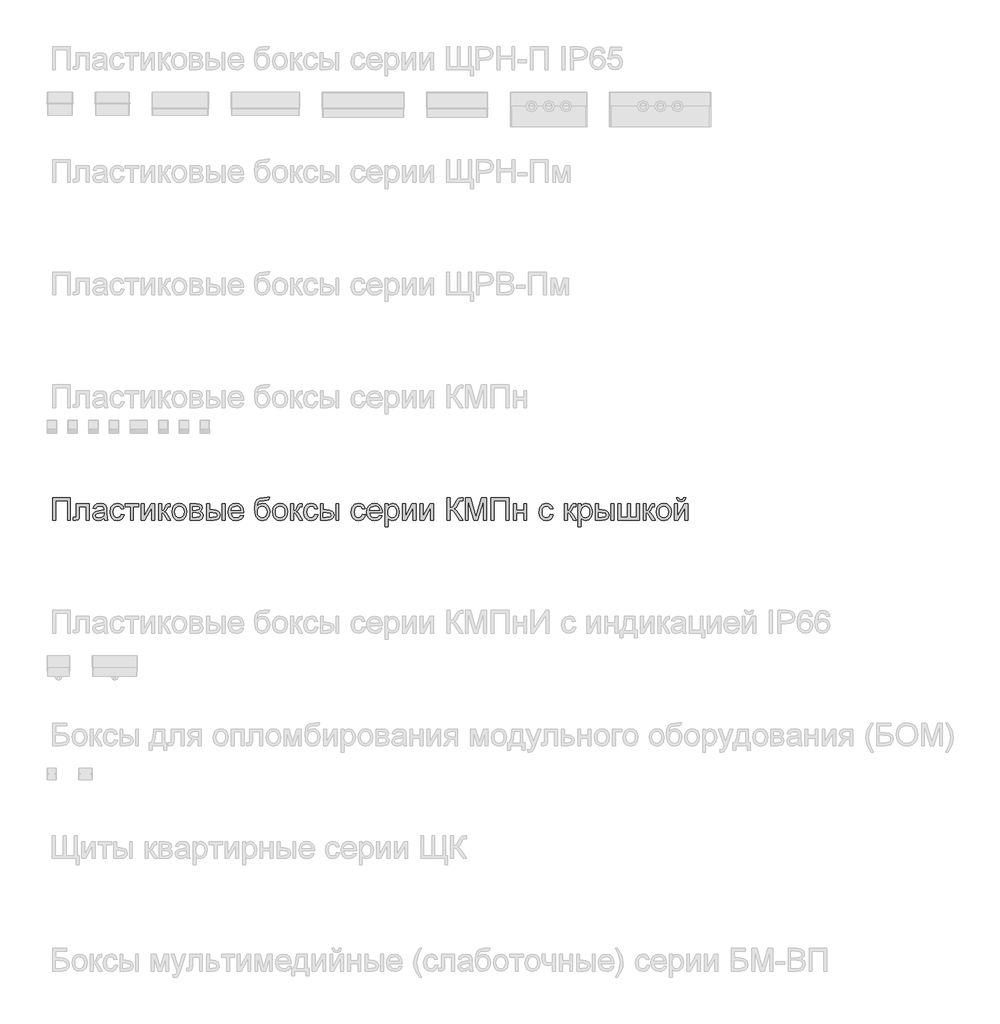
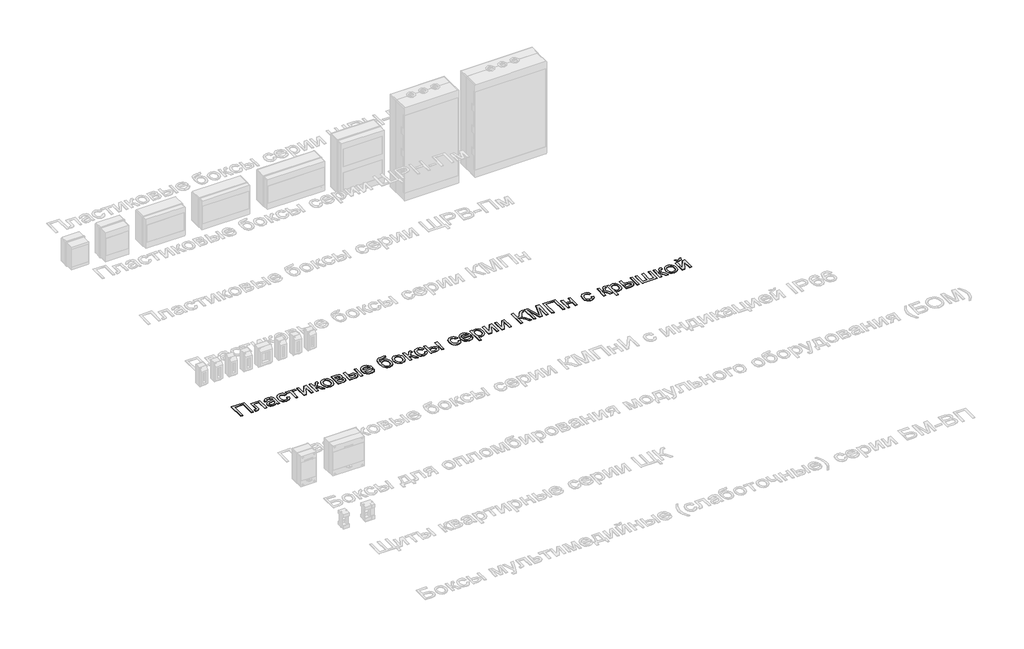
# One storey, part 20 of 25: 1 proxy.
"""IFC4 building model written with IfcOpenShell, lengths in millimetres."""

from ifc_helpers import new_model, si_unit, frame, origin, place, context, project, spatial, polyline, outline, extrude, element, save

model = new_model("IFC4")

# Units and contexts
model_context = context("Model", 3, world=origin())
ifc_project = project(units=[si_unit("LENGTHUNIT", "METRE", prefix="MILLI")], contexts=[model_context])

# Site, building, storey
site = spatial("IfcSite", under=ifc_project)
building = spatial("IfcBuilding", under=site)
storey = spatial("IfcBuildingStorey", under=building, Name="Этаж 01", Elevation=0.0)

# Proxy
placement = place(None, origin())
element("IfcBuildingElementProxy", 1, Name="Надпись на модели 1", ObjectType="Надпись на модели 1", at=placement, inside=storey, context=model_context, shape_type="SweptSolid", body=[
    extrude(outline(polyline([(-19038.1210387, 15636.6915941), (-18959.6395464, 15636.6915941), (-18959.6395464, 15536.235284), (-18972.1965852, 15536.235284), (-18972.1965852, 15624.1345554), (-19025.564, 15624.1345554), (-19025.564, 15536.235284), (-19038.1210387, 15536.235284), (-19038.1210387, 15636.6915941)])), frame((0.0, 0.0, 40.0), z_axis=(0.0, 0.0, 1.0), x_axis=(1.0, 0.0, 0.0)), (0.0, 0.0, 1.0), 2.0),
    extrude(outline(polyline([(-18932.955839, 15610.0078868), (-18876.4491646, 15610.0078868), (-18876.4491646, 15536.3088604), (-18889.0062033, 15536.3088604), (-18889.0062033, 15597.450848), (-18920.3988003, 15597.450848), (-18920.3988003, 15562.2568038), (-18921.2449289, 15546.0209451), (-18925.8925047, 15539.1660772), (-18936.8799137, 15536.235284), (-18947.0825077, 15536.8729461), (-18947.0825077, 15548.7923228), (-18941.4661759, 15548.7923228), (-18935.7885304, 15549.564875), (-18933.5199248, 15552.0174216), (-18932.955839, 15562.9680423), (-18932.955839, 15610.0078868)])), frame((0.0, 0.0, 40.0), z_axis=(0.0, 0.0, 1.0), x_axis=(1.0, 0.0, 0.0)), (0.0, 0.0, 1.0), 2.0),
    extrude(outline(polyline([(-18810.524711, 15545.6530631), (-18822.7016051, 15537.1427262), (-18836.1538234, 15534.6656541), (-18846.6476573, 15536.1555762), (-18854.3885076, 15540.6253425), (-18859.1617765, 15547.4127653), (-18860.7528661, 15555.8556571), (-18858.3493704, 15565.7884709), (-18852.0340628, 15572.998958), (-18843.2416831, 15577.1192364), (-18832.3769016, 15579.0076973), (-18810.5982874, 15583.3241794), (-18810.524711, 15586.1200825), (-18813.9828018, 15595.3907088), (-18827.8642158, 15599.0204778), (-18840.5684073, 15596.6047194), (-18846.6261975, 15588.0330689), (-18859.1832363, 15589.6026988), (-18853.7508455, 15601.8654319), (-18842.8124875, 15609.0513936), (-18826.245535, 15611.5775166), (-18811.0274831, 15609.3456992), (-18802.4313072, 15603.7416301), (-18798.5808089, 15595.2190306), (-18797.9676723, 15584.2316216), (-18797.9676723, 15568.6088996), (-18797.3300102, 15546.7934973), (-18794.8284126, 15536.235284), (-18807.3854514, 15536.235284), (-18810.524711, 15545.6530631)]), holes=[polyline([(-18810.524711, 15570.7671406), (-18830.7827462, 15566.9166424), (-18841.5862142, 15564.8810287), (-18846.4790447, 15561.5700907), (-18848.1958274, 15556.7385739), (-18844.4556937, 15549.9450197), (-18833.4805475, 15547.2226929), (-18820.776356, 15550.2270625), (-18812.5848502, 15557.4988633), (-18810.5982874, 15567.210948), (-18810.524711, 15570.7671406)])]), frame((0.0, 0.0, 40.0), z_axis=(0.0, 0.0, 1.0), x_axis=(1.0, 0.0, 0.0)), (0.0, 0.0, 1.0), 2.0),
    extrude(outline(polyline([(-18733.6128486, 15562.9189914), (-18721.0558098, 15561.3493615), (-18724.5568201, 15550.1810773), (-18731.1357765, 15541.7412512), (-18740.1734108, 15536.4345534), (-18751.0504552, 15534.6656541), (-18764.4076373, 15537.1335292), (-18774.8524202, 15544.5371544), (-18781.5938578, 15556.5515672), (-18783.8410037, 15572.8518052), (-18780.0027682, 15593.7107144), (-18768.3041207, 15607.1138817), (-18751.2221334, 15611.5775166), (-18740.6118035, 15610.044675), (-18732.1290579, 15605.44615), (-18726.0436765, 15598.0271964), (-18722.6254397, 15588.0330689), (-18735.1824784, 15586.4634391), (-18741.0072767, 15595.8689554), (-18751.1240316, 15599.0204778), (-18759.2388952, 15597.4692421), (-18765.6798958, 15592.8155349), (-18769.8829476, 15584.8079701), (-18771.2839649, 15573.1951618), (-18769.9136045, 15561.4260036), (-18765.8025232, 15553.3908477), (-18759.4780185, 15548.7647316), (-18751.4673881, 15547.2226929), (-18739.6338506, 15551.0731911), (-18733.6128486, 15562.9189914)])), frame((0.0, 0.0, 40.0), z_axis=(0.0, 0.0, 1.0), x_axis=(1.0, 0.0, 0.0)), (0.0, 0.0, 1.0), 2.0),
    extrude(outline(polyline([(-18716.3469203, 15610.0078868), (-18656.7009861, 15610.0078868), (-18656.7009861, 15597.450848), (-18680.2454338, 15597.450848), (-18680.2454338, 15536.235284), (-18692.8024726, 15536.235284), (-18692.8024726, 15597.450848), (-18716.3469203, 15597.450848), (-18716.3469203, 15610.0078868)])), frame((0.0, 0.0, 40.0), z_axis=(0.0, 0.0, 1.0), x_axis=(1.0, 0.0, 0.0)), (0.0, 0.0, 1.0), 2.0),
    extrude(outline(polyline([(-18645.7135772, 15610.0078868), (-18633.1565384, 15610.0078868), (-18633.1565384, 15553.746467), (-18602.3035018, 15610.0078868), (-18586.0676431, 15610.0078868), (-18586.0676431, 15536.235284), (-18598.6246818, 15536.235284), (-18598.6246818, 15592.1533473), (-18629.2815148, 15536.235284), (-18645.7135772, 15536.235284), (-18645.7135772, 15610.0078868)])), frame((0.0, 0.0, 40.0), z_axis=(0.0, 0.0, 1.0), x_axis=(1.0, 0.0, 0.0)), (0.0, 0.0, 1.0), 2.0),
    extrude(outline(polyline([(-18567.2320849, 15610.0078868), (-18554.6750461, 15610.0078868), (-18554.6750461, 15578.6152898), (-18546.2628112, 15580.8716327), (-18539.3711551, 15594.0172827), (-18533.6444587, 15605.3603109), (-18528.5922127, 15609.0513936), (-18519.4074255, 15610.0078868), (-18517.0039298, 15610.0078868), (-18517.0039298, 15597.3772716), (-18520.3884442, 15597.450848), (-18526.5198108, 15596.1264728), (-18530.8362928, 15587.8613906), (-18535.9008016, 15578.9218582), (-18543.0009242, 15574.5440624), (-18535.0791985, 15569.6573633), (-18527.3046257, 15559.3627988), (-18513.8646701, 15536.235284), (-18528.1384915, 15536.235284), (-18541.308667, 15558.8722894), (-18547.9305429, 15568.449484), (-18554.6750461, 15570.7671406), (-18554.6750461, 15536.235284), (-18567.2320849, 15536.235284), (-18567.2320849, 15610.0078868)])), frame((0.0, 0.0, 40.0), z_axis=(0.0, 0.0, 1.0), x_axis=(1.0, 0.0, 0.0)), (0.0, 0.0, 1.0), 2.0),
    extrude(outline(polyline([(-18509.1557806, 15573.1215854), (-18506.4395852, 15590.9086798), (-18498.290999, 15603.4105363), (-18488.2232951, 15609.5357715), (-18476.1690284, 15611.5775166), (-18462.9773932, 15609.0912475), (-18452.4406397, 15601.63244), (-18445.5336552, 15589.7897054), (-18443.2313271, 15574.151655), (-18447.3025545, 15551.8089551), (-18459.1606175, 15539.1660772), (-18476.1690284, 15534.6656541), (-18489.5200791, 15537.1427262), (-18500.0445698, 15544.5739426), (-18506.8779779, 15556.6649975), (-18509.1557806, 15573.1215854)]), holes=[polyline([(-18496.5987418, 15573.1461108), (-18495.1456079, 15561.7816229), (-18490.7862063, 15553.6851533), (-18484.2256441, 15548.838308), (-18476.1690284, 15547.2226929), (-18468.1492009, 15548.8475051), (-18461.6009014, 15553.7219415), (-18457.2414997, 15561.92571), (-18455.7883658, 15573.5385183), (-18457.2506968, 15584.5719125), (-18461.6376896, 15592.5580175), (-18468.1951861, 15597.4048627), (-18476.1690284, 15599.0204778), (-18484.2256441, 15597.4109941), (-18490.7862063, 15592.5825429), (-18495.1456079, 15584.5044674), (-18496.5987418, 15573.1461108)])]), frame((0.0, 0.0, 40.0), z_axis=(0.0, 0.0, 1.0), x_axis=(1.0, 0.0, 0.0)), (0.0, 0.0, 1.0), 2.0),
    extrude(outline(polyline([(-18429.1046584, 15610.0078868), (-18401.4399324, 15610.0078868), (-18386.2709315, 15608.3278923), (-18377.7360692, 15602.1720003), (-18374.1676138, 15591.4421087), (-18376.3258549, 15582.7233055), (-18382.8251035, 15576.5060997), (-18374.388343, 15569.7002828), (-18371.0283541, 15557.8667453), (-18373.1559383, 15548.2956821), (-18378.2143158, 15541.5573102), (-18386.2218805, 15537.5657905), (-18397.1970267, 15536.235284), (-18429.1046584, 15536.235284), (-18429.1046584, 15610.0078868)]), holes=[polyline([(-18416.5476197, 15548.7923228), (-18401.1456268, 15548.7923228), (-18387.4849421, 15551.0609284), (-18383.5853929, 15558.8968149), (-18385.7313712, 15564.9423424), (-18391.3231775, 15568.4617468), (-18402.3719001, 15569.1975108), (-18416.5476197, 15569.1975108), (-18416.5476197, 15548.7923228)]), polyline([(-18416.5476197, 15581.7545495), (-18404.1377337, 15581.7545495), (-18393.8983515, 15582.3922117), (-18388.9196818, 15584.9428602), (-18386.7246526, 15589.5536478), (-18390.5751508, 15595.7095399), (-18403.7453262, 15597.450848), (-18416.5476197, 15597.450848), (-18416.5476197, 15581.7545495)])]), frame((0.0, 0.0, 40.0), z_axis=(0.0, 0.0, 1.0), x_axis=(1.0, 0.0, 0.0)), (0.0, 0.0, 1.0), 2.0),
    extrude(outline(polyline([(-18286.2683425, 15610.0078868), (-18273.7113037, 15610.0078868), (-18273.7113037, 15536.235284), (-18286.2683425, 15536.235284), (-18286.2683425, 15610.0078868)])), frame((0.0, 0.0, 40.0), z_axis=(0.0, 0.0, 1.0), x_axis=(1.0, 0.0, 0.0)), (0.0, 0.0, 1.0), 2.0),
    extrude(outline(polyline([(-18355.3320557, 15610.0078868), (-18342.7750169, 15610.0078868), (-18342.7750169, 15583.3241794), (-18327.2503967, 15583.3241794), (-18313.8319009, 15581.7514838), (-18303.88989, 15577.0333973), (-18297.7370637, 15569.5500643), (-18295.6861215, 15559.6816298), (-18297.4059699, 15550.6961121), (-18302.5655148, 15543.1146773), (-18311.5019816, 15537.9551323), (-18324.5525954, 15536.235284), (-18355.3320557, 15536.235284), (-18355.3320557, 15610.0078868)]), holes=[polyline([(-18342.7750169, 15548.7923228), (-18329.8746216, 15548.7923228), (-18313.22183, 15551.4288104), (-18308.2431603, 15559.6571044), (-18311.934243, 15567.3826263), (-18328.2314154, 15570.7671406), (-18342.7750169, 15570.7671406), (-18342.7750169, 15548.7923228)])]), frame((0.0, 0.0, 40.0), z_axis=(0.0, 0.0, 1.0), x_axis=(1.0, 0.0, 0.0)), (0.0, 0.0, 1.0), 2.0),
    extrude(outline(polyline([(-18203.2251134, 15558.2101018), (-18190.9133293, 15556.640472), (-18195.349373, 15547.3637143), (-18202.4280358, 15540.4291387), (-18211.9899019, 15536.1065253), (-18223.8755561, 15534.6656541), (-18238.60923, 15537.1519233), (-18249.9461268, 15544.6107308), (-18257.175008, 15556.5576985), (-18259.5846351, 15572.5084487), (-18257.1504825, 15588.9956935), (-18249.8480249, 15601.3258717), (-18238.6644123, 15609.0146054), (-18224.5867946, 15611.5775166), (-18210.9475696, 15609.0207367), (-18200.0490655, 15601.3503971), (-18192.9029578, 15589.0447444), (-18190.5209218, 15572.5820251), (-18190.5944982, 15569.1975108), (-18247.0275963, 15569.1975108), (-18244.8540268, 15559.7981258), (-18239.8048465, 15552.8880756), (-18232.5177173, 15548.6390386), (-18223.6303014, 15547.2226929), (-18211.3185173, 15549.8469178), (-18203.2251134, 15558.2101018)]), holes=[polyline([(-18247.0275963, 15581.7545495), (-18203.0779606, 15581.7545495), (-18208.1056812, 15593.1343659), (-18215.4265329, 15597.5489499), (-18224.6358455, 15599.0204778), (-18240.0991521, 15594.323851), (-18244.9643914, 15588.8332123), (-18247.0275963, 15581.7545495)])]), frame((0.0, 0.0, 40.0), z_axis=(0.0, 0.0, 1.0), x_axis=(1.0, 0.0, 0.0)), (0.0, 0.0, 1.0), 2.0),
    extrude(outline(polyline([(-18086.925352, 15638.261224), (-18075.9379431, 15638.261224), (-18079.1753046, 15628.4633002), (-18085.5764513, 15624.9193703), (-18100.9539187, 15624.1345554), (-18121.6656751, 15621.2405503), (-18129.6119262, 15611.9699241), (-18132.2974647, 15595.5623871), (-18121.4204204, 15607.5798656), (-18107.4041164, 15611.5775166), (-18094.3381742, 15609.0360652), (-18083.7370414, 15601.4117108), (-18076.7104953, 15589.4524803), (-18074.3683132, 15573.9064003), (-18079.0158891, 15552.2994644), (-18090.0400862, 15539.2641791), (-18107.4041164, 15534.6656541), (-18118.7379475, 15536.1463792), (-18127.2329559, 15540.5885543), (-18138.0854748, 15555.7452925), (-18141.8623966, 15587.9104416), (-18139.4803607, 15612.0036466), (-18132.3342529, 15626.6974666), (-18120.2462637, 15634.1930623), (-18103.0385834, 15636.6915941), (-18089.0590676, 15636.973637), (-18086.925352, 15638.261224)]), holes=[polyline([(-18086.925352, 15574.2988078), (-18088.2865154, 15584.179505), (-18092.3700055, 15592.0920336), (-18098.9305678, 15597.2883668), (-18107.7229475, 15599.0204778), (-18116.8893405, 15597.1902649), (-18123.689026, 15591.6996261), (-18127.9012749, 15583.1494354), (-18129.3053578, 15572.1405667), (-18127.7541221, 15561.4689232), (-18123.1004149, 15553.6361024), (-18116.1719706, 15548.8260453), (-18107.7965239, 15547.2226929), (-18099.3781575, 15549.0774313), (-18092.7133621, 15554.6416465), (-18088.3723545, 15563.2654136), (-18086.925352, 15574.2988078)])]), frame((0.0, 0.0, 40.0), z_axis=(0.0, 0.0, 1.0), x_axis=(1.0, 0.0, 0.0)), (0.0, 0.0, 1.0), 2.0),
    extrude(outline(polyline([(-18061.8112745, 15573.1215854), (-18059.0950791, 15590.9086798), (-18050.9464929, 15603.4105363), (-18040.8787889, 15609.5357715), (-18028.8245222, 15611.5775166), (-18015.632887, 15609.0912475), (-18005.0961335, 15601.63244), (-17998.1891491, 15589.7897054), (-17995.8868209, 15574.151655), (-17999.9580483, 15551.8089551), (-18011.8161113, 15539.1660772), (-18028.8245222, 15534.6656541), (-18042.175573, 15537.1427262), (-18052.7000637, 15544.5739426), (-18059.5334718, 15556.6649975), (-18061.8112745, 15573.1215854)]), holes=[polyline([(-18049.2542357, 15573.1461108), (-18047.8011018, 15561.7816229), (-18043.4417002, 15553.6851533), (-18036.8811379, 15548.838308), (-18028.8245222, 15547.2226929), (-18020.8046947, 15548.8475051), (-18014.2563952, 15553.7219415), (-18009.8969936, 15561.92571), (-18008.4438597, 15573.5385183), (-18009.9061906, 15584.5719125), (-18014.2931834, 15592.5580175), (-18020.85068, 15597.4048627), (-18028.8245222, 15599.0204778), (-18036.8811379, 15597.4109941), (-18043.4417002, 15592.5825429), (-18047.8011018, 15584.5044674), (-18049.2542357, 15573.1461108)])]), frame((0.0, 0.0, 40.0), z_axis=(0.0, 0.0, 1.0), x_axis=(1.0, 0.0, 0.0)), (0.0, 0.0, 1.0), 2.0),
    extrude(outline(polyline([(-17981.7601523, 15610.0078868), (-17969.2031135, 15610.0078868), (-17969.2031135, 15578.6152898), (-17960.7908786, 15580.8716327), (-17953.8992225, 15594.0172827), (-17948.1725262, 15605.3603109), (-17943.1202801, 15609.0513936), (-17933.9354929, 15610.0078868), (-17931.5319972, 15610.0078868), (-17931.5319972, 15597.3772716), (-17934.9165116, 15597.450848), (-17941.0478782, 15596.1264728), (-17945.3643603, 15587.8613906), (-17950.4288691, 15578.9218582), (-17957.5289916, 15574.5440624), (-17949.6072659, 15569.6573633), (-17941.8326931, 15559.3627988), (-17928.3927375, 15536.235284), (-17942.666559, 15536.235284), (-17955.8367344, 15558.8722894), (-17962.4586103, 15568.449484), (-17969.2031135, 15570.7671406), (-17969.2031135, 15536.235284), (-17981.7601523, 15536.235284), (-17981.7601523, 15610.0078868)])), frame((0.0, 0.0, 40.0), z_axis=(0.0, 0.0, 1.0), x_axis=(1.0, 0.0, 0.0)), (0.0, 0.0, 1.0), 2.0),
    extrude(outline(polyline([(-17873.4556929, 15562.9189914), (-17860.8986542, 15561.3493615), (-17864.3996645, 15550.1810773), (-17870.9786208, 15541.7412512), (-17880.0162552, 15536.4345534), (-17890.8932995, 15534.6656541), (-17904.2504816, 15537.1335292), (-17914.6952646, 15544.5371544), (-17921.4367022, 15556.5515672), (-17923.683848, 15572.8518052), (-17919.8456125, 15593.7107144), (-17908.1469651, 15607.1138817), (-17891.0649778, 15611.5775166), (-17880.4546479, 15610.044675), (-17871.9719022, 15605.44615), (-17865.8865209, 15598.0271964), (-17862.468284, 15588.0330689), (-17875.0253228, 15586.4634391), (-17880.850121, 15595.8689554), (-17890.9668759, 15599.0204778), (-17899.0817396, 15597.4692421), (-17905.5227402, 15592.8155349), (-17909.725792, 15584.8079701), (-17911.1268092, 15573.1951618), (-17909.7564488, 15561.4260036), (-17905.6453675, 15553.3908477), (-17899.3208629, 15548.7647316), (-17891.3102324, 15547.2226929), (-17879.4766949, 15551.0731911), (-17873.4556929, 15562.9189914)])), frame((0.0, 0.0, 40.0), z_axis=(0.0, 0.0, 1.0), x_axis=(1.0, 0.0, 0.0)), (0.0, 0.0, 1.0), 2.0),
    extrude(outline(polyline([(-17780.847532, 15610.0078868), (-17768.2904932, 15610.0078868), (-17768.2904932, 15536.235284), (-17780.847532, 15536.235284), (-17780.847532, 15610.0078868)])), frame((0.0, 0.0, 40.0), z_axis=(0.0, 0.0, 1.0), x_axis=(1.0, 0.0, 0.0)), (0.0, 0.0, 1.0), 2.0),
    extrude(outline(polyline([(-17849.9112452, 15610.0078868), (-17837.3542065, 15610.0078868), (-17837.3542065, 15583.3241794), (-17821.8295863, 15583.3241794), (-17808.4110905, 15581.7514838), (-17798.4690796, 15577.0333973), (-17792.3162532, 15569.5500643), (-17790.2653111, 15559.6816298), (-17791.9851594, 15550.6961121), (-17797.1447044, 15543.1146773), (-17806.0811712, 15537.9551323), (-17819.131785, 15536.235284), (-17849.9112452, 15536.235284), (-17849.9112452, 15610.0078868)]), holes=[polyline([(-17837.3542065, 15548.7923228), (-17824.4538112, 15548.7923228), (-17807.8010195, 15551.4288104), (-17802.8223499, 15559.6571044), (-17806.5134325, 15567.3826263), (-17822.8106049, 15570.7671406), (-17837.3542065, 15570.7671406), (-17837.3542065, 15548.7923228)])]), frame((0.0, 0.0, 40.0), z_axis=(0.0, 0.0, 1.0), x_axis=(1.0, 0.0, 0.0)), (0.0, 0.0, 1.0), 2.0),
    extrude(outline(polyline([(-17663.1252936, 15562.9189914), (-17650.5682548, 15561.3493615), (-17654.0692651, 15550.1810773), (-17660.6482215, 15541.7412512), (-17669.6858558, 15536.4345534), (-17680.5629001, 15534.6656541), (-17693.9200822, 15537.1335292), (-17704.3648652, 15544.5371544), (-17711.1063028, 15556.5515672), (-17713.3534486, 15572.8518052), (-17709.5152131, 15593.7107144), (-17697.8165657, 15607.1138817), (-17680.7345784, 15611.5775166), (-17670.1242485, 15610.044675), (-17661.6415028, 15605.44615), (-17655.5561215, 15598.0271964), (-17652.1378846, 15588.0330689), (-17664.6949234, 15586.4634391), (-17670.5197217, 15595.8689554), (-17680.6364765, 15599.0204778), (-17688.7513402, 15597.4692421), (-17695.1923408, 15592.8155349), (-17699.3953926, 15584.8079701), (-17700.7964099, 15573.1951618), (-17699.4260494, 15561.4260036), (-17695.3149681, 15553.3908477), (-17688.9904635, 15548.7647316), (-17680.9798331, 15547.2226929), (-17669.1462955, 15551.0731911), (-17663.1252936, 15562.9189914)])), frame((0.0, 0.0, 40.0), z_axis=(0.0, 0.0, 1.0), x_axis=(1.0, 0.0, 0.0)), (0.0, 0.0, 1.0), 2.0),
    extrude(outline(polyline([(-17587.9302137, 15558.2101018), (-17575.6184296, 15556.640472), (-17580.0544734, 15547.3637143), (-17587.1331361, 15540.4291387), (-17596.6950023, 15536.1065253), (-17608.5806564, 15534.6656541), (-17623.3143303, 15537.1519233), (-17634.6512271, 15544.6107308), (-17641.8801083, 15556.5576985), (-17644.2897354, 15572.5084487), (-17641.8555829, 15588.9956935), (-17634.5531253, 15601.3258717), (-17623.3695126, 15609.0146054), (-17609.2918949, 15611.5775166), (-17595.65267, 15609.0207367), (-17584.7541658, 15601.3503971), (-17577.6080581, 15589.0447444), (-17575.2260222, 15572.5820251), (-17575.2995986, 15569.1975108), (-17631.7326966, 15569.1975108), (-17629.5591272, 15559.7981258), (-17624.5099468, 15552.8880756), (-17617.2228176, 15548.6390386), (-17608.3354017, 15547.2226929), (-17596.0236176, 15549.8469178), (-17587.9302137, 15558.2101018)]), holes=[polyline([(-17631.7326966, 15581.7545495), (-17587.7830609, 15581.7545495), (-17592.8107815, 15593.1343659), (-17600.1316332, 15597.5489499), (-17609.3409459, 15599.0204778), (-17624.8042524, 15594.323851), (-17629.6694918, 15588.8332123), (-17631.7326966, 15581.7545495)])]), frame((0.0, 0.0, 40.0), z_axis=(0.0, 0.0, 1.0), x_axis=(1.0, 0.0, 0.0)), (0.0, 0.0, 1.0), 2.0),
    extrude(outline(polyline([(-17562.6689834, 15507.9819468), (-17562.6689834, 15610.0078868), (-17550.1119446, 15610.0078868), (-17550.1119446, 15597.6961027), (-17541.4299296, 15608.1071631), (-17529.7067566, 15611.5775166), (-17513.789729, 15606.7214743), (-17503.3909312, 15593.036264), (-17499.8837896, 15573.6856711), (-17503.8446524, 15553.3417968), (-17515.3470961, 15539.4849083), (-17531.2273356, 15534.6656541), (-17542.1534308, 15537.890753), (-17550.1119446, 15546.0454705), (-17550.1119446, 15507.9819468), (-17562.6689834, 15507.9819468)]), holes=[polyline([(-17550.1119446, 15572.5329742), (-17548.7538469, 15561.2757851), (-17544.6795538, 15553.4031104), (-17538.6677489, 15548.7677973), (-17531.4971157, 15547.2226929), (-17524.2099865, 15548.8229796), (-17518.0448974, 15553.6238396), (-17513.8418456, 15561.7846886), (-17512.4408283, 15573.4649419), (-17513.8081231, 15584.6608173), (-17517.9100073, 15592.6438566), (-17523.9126152, 15597.4263225), (-17530.9820809, 15599.0204778), (-17538.0791377, 15597.325155), (-17544.3116718, 15592.2391864), (-17548.6618764, 15583.9219876), (-17550.1119446, 15572.5329742)])]), frame((0.0, 0.0, 40.0), z_axis=(0.0, 0.0, 1.0), x_axis=(1.0, 0.0, 0.0)), (0.0, 0.0, 1.0), 2.0),
    extrude(outline(polyline([(-17485.7571209, 15610.0078868), (-17473.2000822, 15610.0078868), (-17473.2000822, 15553.746467), (-17442.3470455, 15610.0078868), (-17426.1111868, 15610.0078868), (-17426.1111868, 15536.235284), (-17438.6682256, 15536.235284), (-17438.6682256, 15592.1533473), (-17469.3250585, 15536.235284), (-17485.7571209, 15536.235284), (-17485.7571209, 15610.0078868)])), frame((0.0, 0.0, 40.0), z_axis=(0.0, 0.0, 1.0), x_axis=(1.0, 0.0, 0.0)), (0.0, 0.0, 1.0), 2.0),
    extrude(outline(polyline([(-17407.2756286, 15610.0078868), (-17394.7185899, 15610.0078868), (-17394.7185899, 15553.746467), (-17363.8655532, 15610.0078868), (-17347.6296945, 15610.0078868), (-17347.6296945, 15536.235284), (-17360.1867333, 15536.235284), (-17360.1867333, 15592.1533473), (-17390.8435662, 15536.235284), (-17407.2756286, 15536.235284), (-17407.2756286, 15610.0078868)])), frame((0.0, 0.0, 40.0), z_axis=(0.0, 0.0, 1.0), x_axis=(1.0, 0.0, 0.0)), (0.0, 0.0, 1.0), 2.0),
    extrude(outline(polyline([(-17287.9837603, 15636.6915941), (-17275.4267216, 15636.6915941), (-17275.4267216, 15592.7419585), (-17261.3858921, 15596.0651591), (-17251.5879683, 15612.8773663), (-17244.659524, 15626.9181958), (-17236.8113748, 15633.8711655), (-17225.590974, 15636.6915941), (-17217.3504173, 15636.5444413), (-17217.3504173, 15623.9874026), (-17220.121795, 15624.060979), (-17222.8931727, 15624.1345554), (-17232.7033592, 15621.117923), (-17240.159101, 15608.1930022), (-17249.0495825, 15592.4476529), (-17257.7193349, 15587.248254), (-17248.0256443, 15581.5706085), (-17238.4668438, 15569.737071), (-17217.3504173, 15536.235284), (-17231.9185443, 15536.235284), (-17249.7730838, 15564.5376722), (-17262.3423853, 15579.3142656), (-17275.4267216, 15583.3241794), (-17275.4267216, 15536.235284), (-17287.9837603, 15536.235284), (-17287.9837603, 15636.6915941)])), frame((0.0, 0.0, 40.0), z_axis=(0.0, 0.0, 1.0), x_axis=(1.0, 0.0, 0.0)), (0.0, 0.0, 1.0), 2.0),
    extrude(outline(polyline([(-17206.3630083, 15536.235284), (-17206.3630083, 15636.6915941), (-17184.7560725, 15636.6915941), (-17164.2037317, 15565.8865728), (-17160.0589279, 15551.0977166), (-17155.5707675, 15567.1128461), (-17135.3617833, 15636.6915941), (-17113.7548474, 15636.6915941), (-17113.7548474, 15536.235284), (-17126.3118862, 15536.235284), (-17126.3118862, 15624.1345554), (-17151.5485911, 15536.235284), (-17168.5692647, 15536.235284), (-17193.8059696, 15624.1345554), (-17193.8059696, 15536.235284), (-17206.3630083, 15536.235284)])), frame((0.0, 0.0, 40.0), z_axis=(0.0, 0.0, 1.0), x_axis=(1.0, 0.0, 0.0)), (0.0, 0.0, 1.0), 2.0),
    extrude(outline(polyline([(-17091.7800296, 15636.6915941), (-17013.2985373, 15636.6915941), (-17013.2985373, 15536.235284), (-17025.855576, 15536.235284), (-17025.855576, 15624.1345554), (-17079.2229908, 15624.1345554), (-17079.2229908, 15536.235284), (-17091.7800296, 15536.235284), (-17091.7800296, 15636.6915941)])), frame((0.0, 0.0, 40.0), z_axis=(0.0, 0.0, 1.0), x_axis=(1.0, 0.0, 0.0)), (0.0, 0.0, 1.0), 2.0),
    extrude(outline(polyline([(-16992.8933493, 15610.0078868), (-16980.3363105, 15610.0078868), (-16980.3363105, 15581.7545495), (-16947.3740837, 15581.7545495), (-16947.3740837, 15610.0078868), (-16934.817045, 15610.0078868), (-16934.817045, 15536.235284), (-16947.3740837, 15536.235284), (-16947.3740837, 15569.1975108), (-16980.3363105, 15569.1975108), (-16980.3363105, 15536.235284), (-16992.8933493, 15536.235284), (-16992.8933493, 15610.0078868)])), frame((0.0, 0.0, 40.0), z_axis=(0.0, 0.0, 1.0), x_axis=(1.0, 0.0, 0.0)), (0.0, 0.0, 1.0), 2.0),
    extrude(outline(polyline([(-16829.6518453, 15562.9189914), (-16817.0948065, 15561.3493615), (-16820.5958168, 15550.1810773), (-16827.1747732, 15541.7412512), (-16836.2124075, 15536.4345534), (-16847.0894519, 15534.6656541), (-16860.446634, 15537.1335292), (-16870.8914169, 15544.5371544), (-16877.6328545, 15556.5515672), (-16879.8800004, 15572.8518052), (-16876.0417649, 15593.7107144), (-16864.3431174, 15607.1138817), (-16847.2611301, 15611.5775166), (-16836.6508002, 15610.044675), (-16828.1680546, 15605.44615), (-16822.0826732, 15598.0271964), (-16818.6644364, 15588.0330689), (-16831.2214751, 15586.4634391), (-16837.0462734, 15595.8689554), (-16847.1630283, 15599.0204778), (-16855.2778919, 15597.4692421), (-16861.7188925, 15592.8155349), (-16865.9219443, 15584.8079701), (-16867.3229616, 15573.1951618), (-16865.9526012, 15561.4260036), (-16861.8415199, 15553.3908477), (-16855.5170152, 15548.7647316), (-16847.5063848, 15547.2226929), (-16835.6728473, 15551.0731911), (-16829.6518453, 15562.9189914)])), frame((0.0, 0.0, 40.0), z_axis=(0.0, 0.0, 1.0), x_axis=(1.0, 0.0, 0.0)), (0.0, 0.0, 1.0), 2.0),
    extrude(outline(polyline([(-16766.8666514, 15610.0078868), (-16754.3096127, 15610.0078868), (-16754.3096127, 15578.6152898), (-16745.8973777, 15580.8716327), (-16739.0057217, 15594.0172827), (-16733.2790253, 15605.3603109), (-16728.2267792, 15609.0513936), (-16719.0419921, 15610.0078868), (-16716.6384964, 15610.0078868), (-16716.6384964, 15597.3772716), (-16720.0230107, 15597.450848), (-16726.1543773, 15596.1264728), (-16730.4708594, 15587.8613906), (-16735.5353682, 15578.9218582), (-16742.6354907, 15574.5440624), (-16734.7137651, 15569.6573633), (-16726.9391922, 15559.3627988), (-16713.4992367, 15536.235284), (-16727.7730581, 15536.235284), (-16740.9432335, 15558.8722894), (-16747.5651094, 15568.449484), (-16754.3096127, 15570.7671406), (-16754.3096127, 15536.235284), (-16766.8666514, 15536.235284), (-16766.8666514, 15610.0078868)])), frame((0.0, 0.0, 40.0), z_axis=(0.0, 0.0, 1.0), x_axis=(1.0, 0.0, 0.0)), (0.0, 0.0, 1.0), 2.0),
    extrude(outline(polyline([(-16705.6510874, 15507.9819468), (-16705.6510874, 15610.0078868), (-16693.0940487, 15610.0078868), (-16693.0940487, 15597.6961027), (-16684.4120336, 15608.1071631), (-16672.6888607, 15611.5775166), (-16656.771833, 15606.7214743), (-16646.3730353, 15593.036264), (-16642.8658936, 15573.6856711), (-16646.8267564, 15553.3417968), (-16658.3292001, 15539.4849083), (-16674.2094396, 15534.6656541), (-16685.1355348, 15537.890753), (-16693.0940487, 15546.0454705), (-16693.0940487, 15507.9819468), (-16705.6510874, 15507.9819468)]), holes=[polyline([(-16693.0940487, 15572.5329742), (-16691.735951, 15561.2757851), (-16687.6616579, 15553.4031104), (-16681.6498529, 15548.7677973), (-16674.4792197, 15547.2226929), (-16667.1920905, 15548.8229796), (-16661.0270014, 15553.6238396), (-16656.8239496, 15561.7846886), (-16655.4229324, 15573.4649419), (-16656.7902271, 15584.6608173), (-16660.8921114, 15592.6438566), (-16666.8947192, 15597.4263225), (-16673.9641849, 15599.0204778), (-16681.0612417, 15597.325155), (-16687.2937759, 15592.2391864), (-16691.6439805, 15583.9219876), (-16693.0940487, 15572.5329742)])]), frame((0.0, 0.0, 40.0), z_axis=(0.0, 0.0, 1.0), x_axis=(1.0, 0.0, 0.0)), (0.0, 0.0, 1.0), 2.0),
    extrude(outline(polyline([(-16559.6755118, 15610.0078868), (-16547.118473, 15610.0078868), (-16547.118473, 15536.235284), (-16559.6755118, 15536.235284), (-16559.6755118, 15610.0078868)])), frame((0.0, 0.0, 40.0), z_axis=(0.0, 0.0, 1.0), x_axis=(1.0, 0.0, 0.0)), (0.0, 0.0, 1.0), 2.0),
    extrude(outline(polyline([(-16628.739225, 15610.0078868), (-16616.1821862, 15610.0078868), (-16616.1821862, 15583.3241794), (-16600.657566, 15583.3241794), (-16587.2390702, 15581.7514838), (-16577.2970593, 15577.0333973), (-16571.144233, 15569.5500643), (-16569.0932908, 15559.6816298), (-16570.8131392, 15550.6961121), (-16575.9726841, 15543.1146773), (-16584.9091509, 15537.9551323), (-16597.9597647, 15536.235284), (-16628.739225, 15536.235284), (-16628.739225, 15610.0078868)]), holes=[polyline([(-16616.1821862, 15548.7923228), (-16603.2817909, 15548.7923228), (-16586.6289993, 15551.4288104), (-16581.6503296, 15559.6571044), (-16585.3414123, 15567.3826263), (-16601.6385847, 15570.7671406), (-16616.1821862, 15570.7671406), (-16616.1821862, 15548.7923228)])]), frame((0.0, 0.0, 40.0), z_axis=(0.0, 0.0, 1.0), x_axis=(1.0, 0.0, 0.0)), (0.0, 0.0, 1.0), 2.0),
    extrude(outline(polyline([(-16528.2829148, 15610.0078868), (-16515.7258761, 15610.0078868), (-16515.7258761, 15548.7923228), (-16487.4725388, 15548.7923228), (-16487.4725388, 15610.0078868), (-16474.9155001, 15610.0078868), (-16474.9155001, 15548.7923228), (-16446.6621628, 15548.7923228), (-16446.6621628, 15610.0078868), (-16434.1051241, 15610.0078868), (-16434.1051241, 15536.235284), (-16528.2829148, 15536.235284), (-16528.2829148, 15610.0078868)])), frame((0.0, 0.0, 40.0), z_axis=(0.0, 0.0, 1.0), x_axis=(1.0, 0.0, 0.0)), (0.0, 0.0, 1.0), 2.0),
    extrude(outline(polyline([(-16416.8391958, 15610.0078868), (-16404.282157, 15610.0078868), (-16404.282157, 15578.6152898), (-16395.869922, 15580.8716327), (-16388.978266, 15594.0172827), (-16383.2515696, 15605.3603109), (-16378.1993235, 15609.0513936), (-16369.0145364, 15610.0078868), (-16366.6110407, 15610.0078868), (-16366.6110407, 15597.3772716), (-16369.995555, 15597.450848), (-16376.1269216, 15596.1264728), (-16380.4434037, 15587.8613906), (-16385.5079125, 15578.9218582), (-16392.608035, 15574.5440624), (-16384.6863094, 15569.6573633), (-16376.9117366, 15559.3627988), (-16363.471781, 15536.235284), (-16377.7456024, 15536.235284), (-16390.9157778, 15558.8722894), (-16397.5376537, 15568.449484), (-16404.282157, 15570.7671406), (-16404.282157, 15536.235284), (-16416.8391958, 15536.235284), (-16416.8391958, 15610.0078868)])), frame((0.0, 0.0, 40.0), z_axis=(0.0, 0.0, 1.0), x_axis=(1.0, 0.0, 0.0)), (0.0, 0.0, 1.0), 2.0),
    extrude(outline(polyline([(-16358.7628915, 15573.1215854), (-16356.0466961, 15590.9086798), (-16347.8981099, 15603.4105363), (-16337.8304059, 15609.5357715), (-16325.7761392, 15611.5775166), (-16312.584504, 15609.0912475), (-16302.0477505, 15601.63244), (-16295.1407661, 15589.7897054), (-16292.8384379, 15574.151655), (-16296.9096653, 15551.8089551), (-16308.7677283, 15539.1660772), (-16325.7761392, 15534.6656541), (-16339.12719, 15537.1427262), (-16349.6516807, 15544.5739426), (-16356.4850888, 15556.6649975), (-16358.7628915, 15573.1215854)]), holes=[polyline([(-16346.2058527, 15573.1461108), (-16344.7527188, 15561.7816229), (-16340.3933172, 15553.6851533), (-16333.8327549, 15548.838308), (-16325.7761392, 15547.2226929), (-16317.7563117, 15548.8475051), (-16311.2080122, 15553.7219415), (-16306.8486106, 15561.92571), (-16305.3954767, 15573.5385183), (-16306.8578076, 15584.5719125), (-16311.2448004, 15592.5580175), (-16317.802297, 15597.4048627), (-16325.7761392, 15599.0204778), (-16333.8327549, 15597.4109941), (-16340.3933172, 15592.5825429), (-16344.7527188, 15584.5044674), (-16346.2058527, 15573.1461108)])]), frame((0.0, 0.0, 40.0), z_axis=(0.0, 0.0, 1.0), x_axis=(1.0, 0.0, 0.0)), (0.0, 0.0, 1.0), 2.0),
    extrude(outline(polyline([(-16278.7117693, 15610.0078868), (-16266.1547305, 15610.0078868), (-16266.1547305, 15553.746467), (-16235.3016939, 15610.0078868), (-16219.0658352, 15610.0078868), (-16219.0658352, 15536.235284), (-16231.6228739, 15536.235284), (-16231.6228739, 15592.1533473), (-16262.2797069, 15536.235284), (-16278.7117693, 15536.235284), (-16278.7117693, 15610.0078868)])), frame((0.0, 0.0, 40.0), z_axis=(0.0, 0.0, 1.0), x_axis=(1.0, 0.0, 0.0)), (0.0, 0.0, 1.0), 2.0),
    extrude(outline(polyline([(-16237.9013933, 15636.6915941), (-16228.4836142, 15636.6915941), (-16234.5781926, 15622.7243411), (-16248.1039873, 15617.856036), (-16262.7456907, 15622.6875529), (-16269.2939902, 15636.6915941), (-16259.8762112, 15636.6915941), (-16256.344544, 15629.6159971), (-16249.2321588, 15627.2738151), (-16241.4330605, 15629.5424207), (-16237.9013933, 15636.6915941)])), frame((0.0, 0.0, 40.0), z_axis=(0.0, 0.0, 1.0), x_axis=(1.0, 0.0, 0.0)), (0.0, 0.0, 1.0), 2.0),
])

save(model, "model.ifc")
